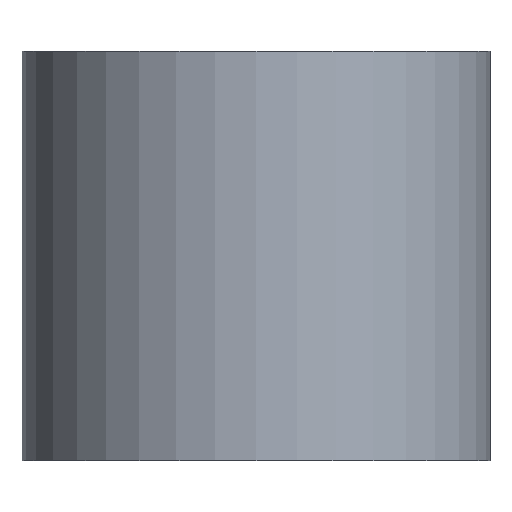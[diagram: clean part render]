
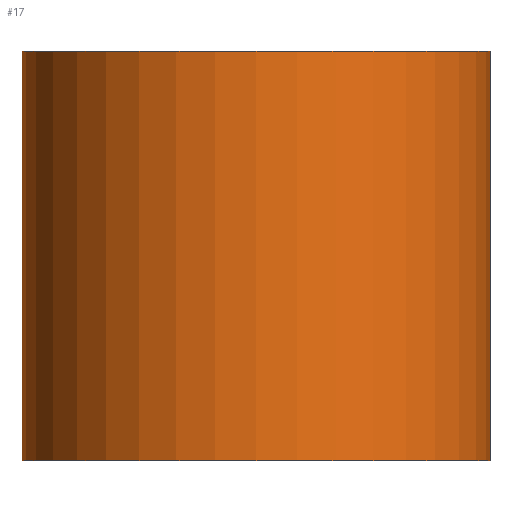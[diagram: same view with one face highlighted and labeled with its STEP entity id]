
A CAD part, front view. The second image highlights one B-rep face of the part: STEP entity #17.
In plain terms, the highlighted cylindrical face has radius 12 mm (diameter 24 mm), a full revolution.
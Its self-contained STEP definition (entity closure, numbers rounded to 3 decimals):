
#17 = ADVANCED_FACE('',(#18),#31,.T.);
#18 = FACE_BOUND('',#19,.T.);
#19 = EDGE_LOOP('',(#20,#54,#77,#104));
#20 = ORIENTED_EDGE('',*,*,#21,.F.);
#21 = EDGE_CURVE('',#22,#22,#24,.T.);
#22 = VERTEX_POINT('',#23);
#23 = CARTESIAN_POINT('',(-232.,-183.913,23.5));
#24 = SURFACE_CURVE('',#25,(#30,#42),.PCURVE_S1.);
#25 = CIRCLE('',#26,12.);
#26 = AXIS2_PLACEMENT_3D('',#27,#28,#29);
#27 = CARTESIAN_POINT('',(-244.,-183.913,23.5));
#28 = DIRECTION('',(0.,0.,1.));
#29 = DIRECTION('',(1.,0.,-0.));
#30 = PCURVE('',#31,#36);
#31 = CYLINDRICAL_SURFACE('',#32,12.);
#32 = AXIS2_PLACEMENT_3D('',#33,#34,#35);
#33 = CARTESIAN_POINT('',(-244.,-183.913,2.5));
#34 = DIRECTION('',(0.,0.,1.));
#35 = DIRECTION('',(1.,0.,-0.));
#36 = DEFINITIONAL_REPRESENTATION('',(#37),#41);
#37 = LINE('',#38,#39);
#38 = CARTESIAN_POINT('',(0.,21.));
#39 = VECTOR('',#40,1.);
#40 = DIRECTION('',(1.,0.));
#41 = ( GEOMETRIC_REPRESENTATION_CONTEXT(2) 
PARAMETRIC_REPRESENTATION_CONTEXT() REPRESENTATION_CONTEXT('2D SPACE',''
  ) );
#42 = PCURVE('',#43,#48);
#43 = PLANE('',#44);
#44 = AXIS2_PLACEMENT_3D('',#45,#46,#47);
#45 = CARTESIAN_POINT('',(-244.,-183.913,23.5));
#46 = DIRECTION('',(0.,0.,1.));
#47 = DIRECTION('',(1.,0.,-0.));
#48 = DEFINITIONAL_REPRESENTATION('',(#49),#53);
#49 = CIRCLE('',#50,12.);
#50 = AXIS2_PLACEMENT_2D('',#51,#52);
#51 = CARTESIAN_POINT('',(0.,0.));
#52 = DIRECTION('',(1.,0.));
#53 = ( GEOMETRIC_REPRESENTATION_CONTEXT(2) 
PARAMETRIC_REPRESENTATION_CONTEXT() REPRESENTATION_CONTEXT('2D SPACE',''
  ) );
#54 = ORIENTED_EDGE('',*,*,#55,.F.);
#55 = EDGE_CURVE('',#56,#22,#58,.T.);
#56 = VERTEX_POINT('',#57);
#57 = CARTESIAN_POINT('',(-232.,-183.913,2.5));
#58 = SEAM_CURVE('',#59,(#63,#70),.PCURVE_S1.);
#59 = LINE('',#60,#61);
#60 = CARTESIAN_POINT('',(-232.,-183.913,2.5));
#61 = VECTOR('',#62,1.);
#62 = DIRECTION('',(0.,0.,1.));
#63 = PCURVE('',#31,#64);
#64 = DEFINITIONAL_REPRESENTATION('',(#65),#69);
#65 = LINE('',#66,#67);
#66 = CARTESIAN_POINT('',(6.283,-0.));
#67 = VECTOR('',#68,1.);
#68 = DIRECTION('',(0.,1.));
#69 = ( GEOMETRIC_REPRESENTATION_CONTEXT(2) 
PARAMETRIC_REPRESENTATION_CONTEXT() REPRESENTATION_CONTEXT('2D SPACE',''
  ) );
#70 = PCURVE('',#31,#71);
#71 = DEFINITIONAL_REPRESENTATION('',(#72),#76);
#72 = LINE('',#73,#74);
#73 = CARTESIAN_POINT('',(0.,-0.));
#74 = VECTOR('',#75,1.);
#75 = DIRECTION('',(0.,1.));
#76 = ( GEOMETRIC_REPRESENTATION_CONTEXT(2) 
PARAMETRIC_REPRESENTATION_CONTEXT() REPRESENTATION_CONTEXT('2D SPACE',''
  ) );
#77 = ORIENTED_EDGE('',*,*,#78,.T.);
#78 = EDGE_CURVE('',#56,#56,#79,.T.);
#79 = SURFACE_CURVE('',#80,(#85,#92),.PCURVE_S1.);
#80 = CIRCLE('',#81,12.);
#81 = AXIS2_PLACEMENT_3D('',#82,#83,#84);
#82 = CARTESIAN_POINT('',(-244.,-183.913,2.5));
#83 = DIRECTION('',(0.,0.,1.));
#84 = DIRECTION('',(1.,0.,-0.));
#85 = PCURVE('',#31,#86);
#86 = DEFINITIONAL_REPRESENTATION('',(#87),#91);
#87 = LINE('',#88,#89);
#88 = CARTESIAN_POINT('',(0.,0.));
#89 = VECTOR('',#90,1.);
#90 = DIRECTION('',(1.,0.));
#91 = ( GEOMETRIC_REPRESENTATION_CONTEXT(2) 
PARAMETRIC_REPRESENTATION_CONTEXT() REPRESENTATION_CONTEXT('2D SPACE',''
  ) );
#92 = PCURVE('',#93,#98);
#93 = PLANE('',#94);
#94 = AXIS2_PLACEMENT_3D('',#95,#96,#97);
#95 = CARTESIAN_POINT('',(-244.,-183.913,2.5));
#96 = DIRECTION('',(0.,0.,1.));
#97 = DIRECTION('',(1.,0.,-0.));
#98 = DEFINITIONAL_REPRESENTATION('',(#99),#103);
#99 = CIRCLE('',#100,12.);
#100 = AXIS2_PLACEMENT_2D('',#101,#102);
#101 = CARTESIAN_POINT('',(0.,0.));
#102 = DIRECTION('',(1.,0.));
#103 = ( GEOMETRIC_REPRESENTATION_CONTEXT(2) 
PARAMETRIC_REPRESENTATION_CONTEXT() REPRESENTATION_CONTEXT('2D SPACE',''
  ) );
#104 = ORIENTED_EDGE('',*,*,#55,.T.);
